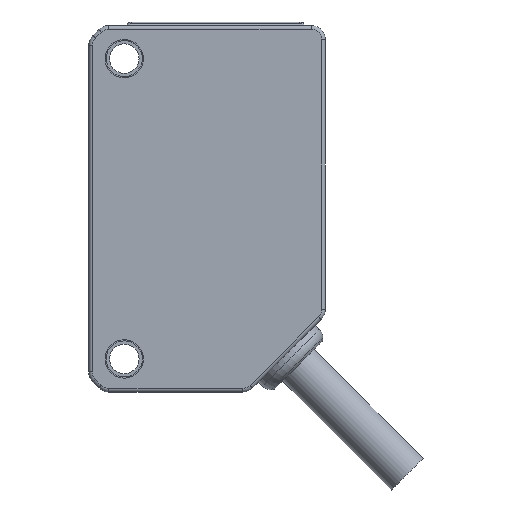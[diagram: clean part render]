
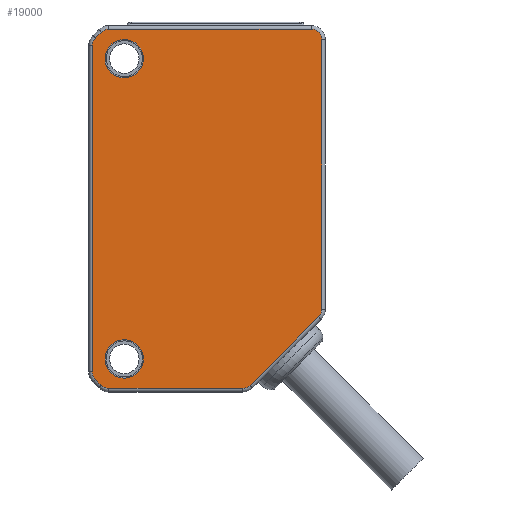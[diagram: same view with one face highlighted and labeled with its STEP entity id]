
A CAD part, front view. The second image highlights one B-rep face of the part: STEP entity #19000.
In plain terms, the highlighted planar face has unit normal (0, -1, 0) as drawn and (0, 0, 1) by its records, which use the part's own axes.
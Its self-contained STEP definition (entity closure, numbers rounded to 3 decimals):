
#5430=CARTESIAN_POINT('',(20.3,80.643,11.));
#5440=VERTEX_POINT('',#5430);
#5630=CARTESIAN_POINT('',(20.564,81.279,11.));
#5640=VERTEX_POINT('',#5630);
#5670=CARTESIAN_POINT('',(21.2,80.643,11.));
#5680=DIRECTION('',(0.,0.,1.));
#5690=DIRECTION('',(1.,0.,-0.));
#5700=AXIS2_PLACEMENT_3D('',#5670,#5680,#5690);
#5710=CIRCLE('',#5700,0.9);
#5720=EDGE_CURVE('',#5640,#5440,#5710,.T.);
#5870=CARTESIAN_POINT('',(21.697,51.64,11.));
#5880=VERTEX_POINT('',#5870);
#6070=CARTESIAN_POINT('',(21.061,51.903,11.));
#6080=VERTEX_POINT('',#6070);
#6110=CARTESIAN_POINT('',(21.697,52.54,11.));
#6120=DIRECTION('',(0.,0.,1.));
#6130=DIRECTION('',(1.,0.,-0.));
#6140=AXIS2_PLACEMENT_3D('',#6110,#6120,#6130);
#6150=CIRCLE('',#6140,0.9);
#6160=EDGE_CURVE('',#6080,#5880,#6150,.T.);
#6310=CARTESIAN_POINT('',(20.3,53.037,11.));
#6320=VERTEX_POINT('',#6310);
#6440=CARTESIAN_POINT('',(20.3,80.643,11.));
#6450=DIRECTION('',(0.,-1.,0.));
#6460=VECTOR('',#6450,1.);
#6470=LINE('',#6440,#6460);
#6480=EDGE_CURVE('',#5440,#6320,#6470,.T.);
#6630=CARTESIAN_POINT('',(39.7,81.14,11.));
#6640=VERTEX_POINT('',#6630);
#6820=CARTESIAN_POINT('',(39.7,58.337,11.));
#6830=VERTEX_POINT('',#6820);
#6860=CARTESIAN_POINT('',(39.7,58.337,11.));
#6870=DIRECTION('',(0.,1.,0.));
#6880=VECTOR('',#6870,1.);
#6890=LINE('',#6860,#6880);
#6900=EDGE_CURVE('',#6830,#6640,#6890,.T.);
#7050=CARTESIAN_POINT('',(33.003,51.64,11.));
#7060=VERTEX_POINT('',#7050);
#7180=CARTESIAN_POINT('',(21.697,51.64,11.));
#7190=DIRECTION('',(1.,0.,0.));
#7200=VECTOR('',#7190,1.);
#7210=LINE('',#7180,#7200);
#7220=EDGE_CURVE('',#5880,#7060,#7210,.T.);
#7370=CARTESIAN_POINT('',(20.564,52.4,11.));
#7380=VERTEX_POINT('',#7370);
#7510=CARTESIAN_POINT('',(21.2,53.037,11.));
#7520=DIRECTION('',(0.,0.,1.));
#7530=DIRECTION('',(1.,0.,-0.));
#7540=AXIS2_PLACEMENT_3D('',#7510,#7520,#7530);
#7550=CIRCLE('',#7540,0.9);
#7560=EDGE_CURVE('',#6320,#7380,#7550,.T.);
#7800=CARTESIAN_POINT('',(21.061,81.776,11.));
#7810=VERTEX_POINT('',#7800);
#7840=CARTESIAN_POINT('',(21.061,81.776,11.));
#7850=DIRECTION('',(-0.707,-0.707,0.));
#7860=VECTOR('',#7850,1.);
#7870=LINE('',#7840,#7860);
#7880=EDGE_CURVE('',#7810,#5640,#7870,.T.);
#7980=CARTESIAN_POINT('',(38.8,81.14,11.));
#7990=DIRECTION('',(0.,0.,1.));
#8000=DIRECTION('',(1.,0.,-0.));
#8010=AXIS2_PLACEMENT_3D('',#7980,#7990,#8000);
#8020=CIRCLE('',#8010,0.9);
#8030=CARTESIAN_POINT('',(38.8,82.04,11.));
#8040=VERTEX_POINT('',#8030);
#8050=EDGE_CURVE('',#6640,#8040,#8020,.T.);
#8400=CARTESIAN_POINT('',(20.564,52.4,11.));
#8410=DIRECTION('',(0.707,-0.707,0.));
#8420=VECTOR('',#8410,1.);
#8430=LINE('',#8400,#8420);
#8440=EDGE_CURVE('',#7380,#6080,#8430,.T.);
#8690=CARTESIAN_POINT('',(21.697,82.04,11.));
#8700=VERTEX_POINT('',#8690);
#8730=CARTESIAN_POINT('',(21.697,81.14,11.));
#8740=DIRECTION('',(0.,0.,1.));
#8750=DIRECTION('',(1.,0.,-0.));
#8760=AXIS2_PLACEMENT_3D('',#8730,#8740,#8750);
#8770=CIRCLE('',#8760,0.9);
#8780=EDGE_CURVE('',#8700,#7810,#8770,.T.);
#8960=CARTESIAN_POINT('',(38.8,82.04,11.));
#8970=DIRECTION('',(-1.,0.,0.));
#8980=VECTOR('',#8970,1.);
#8990=LINE('',#8960,#8980);
#9000=EDGE_CURVE('',#8040,#8700,#8990,.T.);
#16970=CARTESIAN_POINT('',(21.375,79.54,11.));
#16980=VERTEX_POINT('',#16970);
#17010=CARTESIAN_POINT('',(23.,79.54,11.));
#17020=DIRECTION('',(0.,0.,1.));
#17030=DIRECTION('',(1.,0.,0.));
#17040=AXIS2_PLACEMENT_3D('',#17010,#17020,#17030);
#17050=CIRCLE('',#17040,1.625);
#17060=CARTESIAN_POINT('',(24.625,79.54,11.));
#17070=VERTEX_POINT('',#17060);
#17080=EDGE_CURVE('',#17070,#16980,#17050,.T.);
#17390=CARTESIAN_POINT('',(21.375,54.14,11.));
#17400=VERTEX_POINT('',#17390);
#17430=CARTESIAN_POINT('',(23.,54.14,11.));
#17440=DIRECTION('',(0.,0.,1.));
#17450=DIRECTION('',(1.,0.,0.));
#17460=AXIS2_PLACEMENT_3D('',#17430,#17440,#17450);
#17470=CIRCLE('',#17460,1.625);
#17480=CARTESIAN_POINT('',(24.625,54.14,11.));
#17490=VERTEX_POINT('',#17480);
#17500=EDGE_CURVE('',#17490,#17400,#17470,.T.);
#18480=CARTESIAN_POINT('',(19.815,82.8,11.));
#18490=DIRECTION('',(0.,0.,1.));
#18500=DIRECTION('',(1.,0.,-0.));
#18510=AXIS2_PLACEMENT_3D('',#18480,#18490,#18500);
#18520=PLANE('',#18510);
#18530=ORIENTED_EDGE('',*,*,#7880,.T.);
#18540=ORIENTED_EDGE('',*,*,#8780,.T.);
#18550=ORIENTED_EDGE('',*,*,#9000,.T.);
#18560=ORIENTED_EDGE('',*,*,#8050,.T.);
#18570=ORIENTED_EDGE('',*,*,#6900,.T.);
#18580=CARTESIAN_POINT('',(38.8,58.337,11.));
#18590=DIRECTION('',(0.,0.,1.));
#18600=DIRECTION('',(1.,0.,-0.));
#18610=AXIS2_PLACEMENT_3D('',#18580,#18590,#18600);
#18620=CIRCLE('',#18610,0.9);
#18630=CARTESIAN_POINT('',(39.436,57.7,11.));
#18640=VERTEX_POINT('',#18630);
#18650=EDGE_CURVE('',#18640,#6830,#18620,.T.);
#18660=ORIENTED_EDGE('',*,*,#18650,.T.);
#18670=CARTESIAN_POINT('',(39.436,57.7,11.));
#18680=DIRECTION('',(-0.707,-0.707,0.));
#18690=VECTOR('',#18680,1.);
#18700=LINE('',#18670,#18690);
#18710=CARTESIAN_POINT('',(33.639,51.903,11.));
#18720=VERTEX_POINT('',#18710);
#18730=EDGE_CURVE('',#18640,#18720,#18700,.T.);
#18740=ORIENTED_EDGE('',*,*,#18730,.F.);
#18750=CARTESIAN_POINT('',(33.003,52.54,11.));
#18760=DIRECTION('',(0.,0.,-1.));
#18770=DIRECTION('',(-1.,0.,-0.));
#18780=AXIS2_PLACEMENT_3D('',#18750,#18760,#18770);
#18790=CIRCLE('',#18780,0.9);
#18800=EDGE_CURVE('',#18720,#7060,#18790,.T.);
#18810=ORIENTED_EDGE('',*,*,#18800,.F.);
#18820=ORIENTED_EDGE('',*,*,#7220,.T.);
#18830=ORIENTED_EDGE('',*,*,#6160,.T.);
#18840=ORIENTED_EDGE('',*,*,#8440,.T.);
#18850=ORIENTED_EDGE('',*,*,#7560,.T.);
#18860=ORIENTED_EDGE('',*,*,#6480,.T.);
#18870=ORIENTED_EDGE('',*,*,#5720,.T.);
#18880=EDGE_LOOP('',(#18870,#18860,#18850,#18840,#18830,#18820,#18810,
#18740,#18660,#18570,#18560,#18550,#18540,#18530));
#18890=FACE_OUTER_BOUND('',#18880,.T.);
#18900=EDGE_CURVE('',#17400,#17490,#17470,.T.);
#18910=ORIENTED_EDGE('',*,*,#18900,.F.);
#18920=ORIENTED_EDGE('',*,*,#17500,.F.);
#18930=EDGE_LOOP('',(#18920,#18910));
#18940=FACE_BOUND('',#18930,.T.);
#18950=ORIENTED_EDGE('',*,*,#17080,.F.);
#18960=EDGE_CURVE('',#16980,#17070,#17050,.T.);
#18970=ORIENTED_EDGE('',*,*,#18960,.F.);
#18980=EDGE_LOOP('',(#18970,#18950));
#18990=FACE_BOUND('',#18980,.T.);
#19000=ADVANCED_FACE('',(#18890,#18940,#18990),#18520,.T.);
